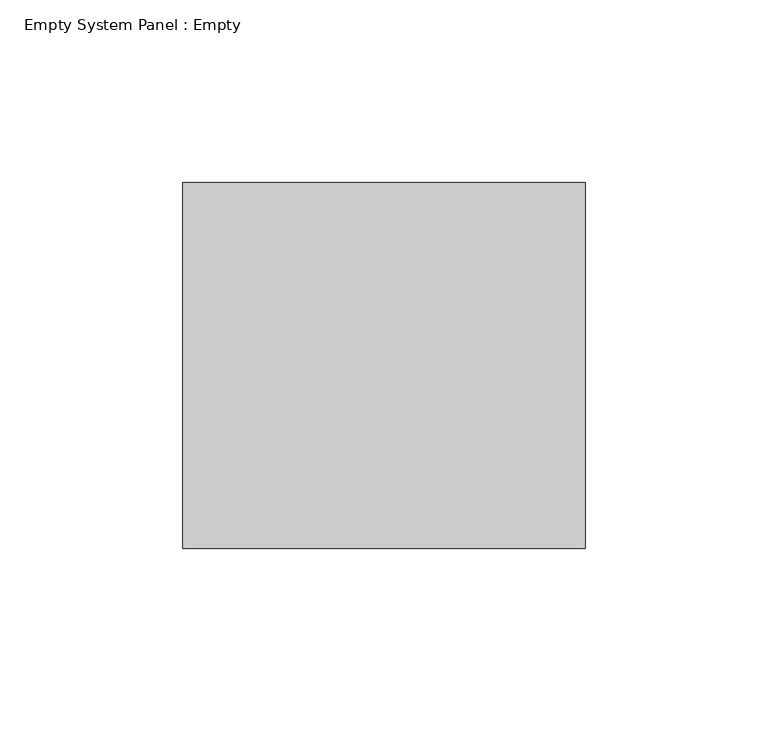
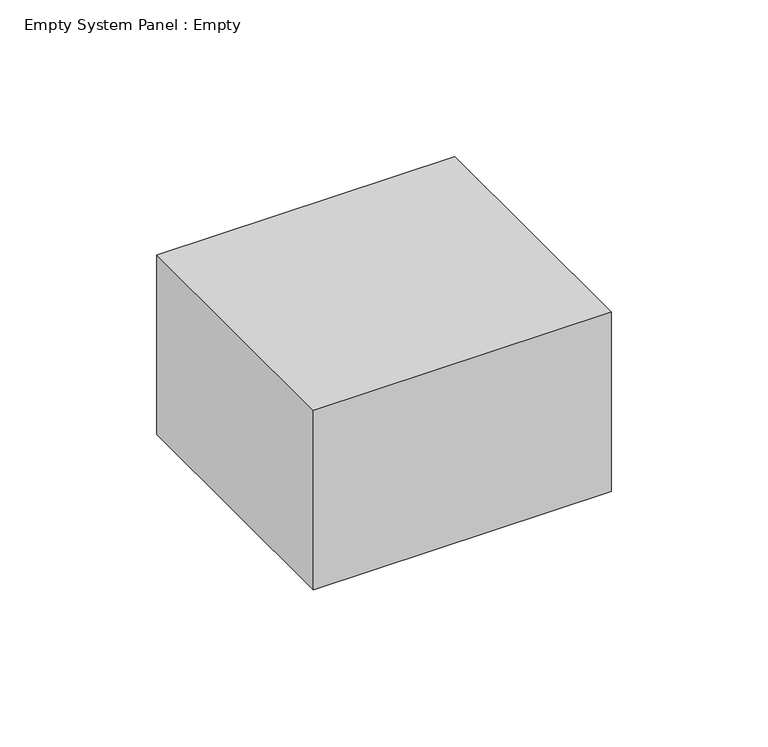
"""IFC4 building model written with IfcOpenShell, lengths in millimetres: plate geometry, Empty System Panel : Empty."""

import ifcopenshell
import ifcopenshell.guid

model = None  # the IFC model being written
_history = None  # IfcOwnerHistory: only IFC2X3 demands one
_inside = {}  # id of a spatial element -> (the spatial element, [elements in it])
_under = {}  # id of a project, library or spatial element -> (it, [spatial elements below it])
_declared = {}  # id of a project -> (the project, [libraries it declares])
_typed = {}  # id of a type object -> (the type object, [elements of that type])
_made_of = {}  # id of a material, layer set ... -> (it, [elements and type objects made of it])


def new_model(schema):
    """Start an empty IFC model of exactly this schema.

    Asked for "IFC4X3", IfcOpenShell would pick the latest addendum, in which some entities
    have other attributes; the version numbers below select the first issue.
    IFC2X3 requires an IfcOwnerHistory on every rooted entity: one is made here for all.
    """
    global model, _history
    if schema == "IFC4X3":
        model = ifcopenshell.file(schema_version=(4, 3, 0, 0))
    else:
        model = ifcopenshell.file(schema=schema)
    _inside.clear()
    _under.clear()
    _declared.clear()
    _typed.clear()
    _made_of.clear()
    _history = None
    if model.schema == "IFC2X3":
        org = make("IfcOrganization", Name="unknown")
        user = make(
            "IfcPersonAndOrganization",
            ThePerson=make("IfcPerson", FamilyName="unknown"),
            TheOrganization=org,
        )
        app = make(
            "IfcApplication",
            ApplicationDeveloper=org,
            Version="unknown",
            ApplicationFullName="unknown",
            ApplicationIdentifier="unknown",
        )
        _history = make(
            "IfcOwnerHistory",
            OwningUser=user,
            OwningApplication=app,
            ChangeAction="ADDED",
            CreationDate=0,
        )
    return model


def make(cls, **values):
    """One entity of the class cls with the attributes given. An attribute that is None is left unset."""
    return model.create_entity(
        cls, **{name: value for name, value in values.items() if value is not None}
    )


def rooted(cls, **values):
    """An entity with a GlobalId (a new one), such as an element, a storey or a relation."""
    return make(cls, GlobalId=ifcopenshell.guid.new(), OwnerHistory=_history, **values)


def si_unit(unit_type, name, prefix=None):
    """IfcSIUnit, for example si_unit("LENGTHUNIT", "METRE", prefix="MILLI")."""
    return make("IfcSIUnit", UnitType=unit_type, Prefix=prefix, Name=name)


def assignment(units):
    """IfcUnitAssignment: the units of a project."""
    return None if units is None else make("IfcUnitAssignment", Units=units)


def point(xyz):
    """IfcCartesianPoint."""
    return None if xyz is None else make("IfcCartesianPoint", Coordinates=xyz)


def direction(xyz):
    """IfcDirection."""
    return None if xyz is None else make("IfcDirection", DirectionRatios=xyz)


def frame(location, z_axis=None, x_axis=None):
    """IfcAxis2Placement3D, a coordinate frame: its origin and axes. An axis left out is left unset."""
    return make(
        "IfcAxis2Placement3D",
        Location=point(location),
        Axis=direction(z_axis),
        RefDirection=direction(x_axis),
    )


def origin():
    """The frame at (0, 0, 0) with its axes left unset."""
    return frame((0.0, 0.0, 0.0))


def origin_with_axes():
    """The frame at (0, 0, 0) with the z axis (0, 0, 1) and the x axis (1, 0, 0) written out."""
    return frame((0.0, 0.0, 0.0), z_axis=(0.0, 0.0, 1.0), x_axis=(1.0, 0.0, 0.0))


def place(relative_to, where):
    """IfcLocalPlacement: puts the frame where relative to a parent placement (None: the world)."""
    return make(
        "IfcLocalPlacement", PlacementRelTo=relative_to, RelativePlacement=where
    )


def context(
    kind, dimensions, precision=None, world=None, true_north=None, identifier=None
):
    """IfcGeometricRepresentationContext, for example the 3D "Model" context."""
    return make(
        "IfcGeometricRepresentationContext",
        ContextIdentifier=identifier,
        ContextType=kind,
        CoordinateSpaceDimension=dimensions,
        Precision=precision,
        WorldCoordinateSystem=world,
        TrueNorth=true_north,
    )


def project(units=None, contexts=None):
    """IfcProject with its units and contexts."""
    return rooted(
        "IfcProject",
        Name="project",
        RepresentationContexts=contexts,
        UnitsInContext=assignment(units),
    )


def spatial(cls, under=None, at=None, **own):
    """A site, building, storey or space (cls), placed at a placement, below another one or the project."""
    s = rooted(cls, ObjectPlacement=at, **own)
    if under is not None:
        _under.setdefault(under.id(), (under, []))[1].append(s)
    return s


def polyline(points):
    """IfcPolyline through the points."""
    return make("IfcPolyline", Points=[point(p) for p in points])


def outline(outer, holes=None, kind="AREA"):
    """IfcArbitraryClosedProfileDef: a profile drawn as a closed curve; with holes, ...WithVoids."""
    if holes is None:
        return make("IfcArbitraryClosedProfileDef", ProfileType=kind, OuterCurve=outer)
    return make(
        "IfcArbitraryProfileDefWithVoids",
        ProfileType=kind,
        OuterCurve=outer,
        InnerCurves=holes,
    )


def extrude(swept, where, along, depth):
    """IfcExtrudedAreaSolid: the profile swept, set in the frame where, extruded along a direction by depth."""
    return make(
        "IfcExtrudedAreaSolid",
        SweptArea=swept,
        Position=where,
        ExtrudedDirection=direction(along),
        Depth=depth,
    )


def shape(context_of_items, identifier, shape_type, items):
    """IfcShapeRepresentation: the items that make up one representation, for example the "Body"."""
    return make(
        "IfcShapeRepresentation",
        ContextOfItems=context_of_items,
        RepresentationIdentifier=identifier,
        RepresentationType=shape_type,
        Items=items,
    )


def source(mapping_origin, context_of_items, identifier, shape_type, items):
    """IfcRepresentationMap: a shape defined once, which mapped items show again and again."""
    return make(
        "IfcRepresentationMap",
        MappingOrigin=mapping_origin,
        MappedRepresentation=shape(context_of_items, identifier, shape_type, items),
    )


def transform(
    local_origin,
    x_axis=None,
    y_axis=None,
    z_axis=None,
    scale=None,
    scale2=None,
    scale3=None,
    uniform=True,
):
    """IfcCartesianTransformationOperator3D, or its non-uniform kind. x_axis, y_axis, z_axis: its Axis1, 2, 3."""
    if uniform:
        return make(
            "IfcCartesianTransformationOperator3D",
            Axis1=direction(x_axis),
            Axis2=direction(y_axis),
            LocalOrigin=point(local_origin),
            Scale=scale,
            Axis3=direction(z_axis),
        )
    return make(
        "IfcCartesianTransformationOperator3DnonUniform",
        Axis1=direction(x_axis),
        Axis2=direction(y_axis),
        LocalOrigin=point(local_origin),
        Scale=scale,
        Axis3=direction(z_axis),
        Scale2=scale2,
        Scale3=scale3,
    )


def mapped(mapping_source, mapping_target):
    """IfcMappedItem: shows the shape of a source again, moved by a transform."""
    return make(
        "IfcMappedItem", MappingSource=mapping_source, MappingTarget=mapping_target
    )


def made_of(thing, what):
    """Note that an element or type object is made of a material, layer set ...; save() writes the relation."""
    if what is not None:
        _made_of.setdefault(what.id(), (what, []))[1].append(thing)
    return thing


def element(
    cls,
    number,
    at=None,
    inside=None,
    cuts=None,
    type_object=None,
    material=None,
    context=None,
    identifier="Body",
    shape_type=None,
    held_by="IfcProductDefinitionShape",
    body=None,
    shapes=None,
    **own,
):
    """One element of the class cls, such as IfcWall. Its Tag is "e" and its number.

    at: its placement. inside: the storey or other place that contains it. cuts: it is an
    opening in that element (IfcRelVoidsElement). A single representation is given by context,
    identifier, shape_type and body (its items); several are given by shapes. held_by: the class
    of the entity that holds the representations. save() writes the other relations.
    """
    e = rooted(cls, Tag="e%d" % number, ObjectPlacement=at, **own)
    if body is not None:
        shapes = [shape(context, identifier, shape_type, body)]
    if shapes is not None:
        e.Representation = make(held_by, Representations=shapes)
    if inside is not None:
        _inside.setdefault(inside.id(), (inside, []))[1].append(e)
    if cuts is not None:
        rooted(
            "IfcRelVoidsElement", RelatingBuildingElement=cuts, RelatedOpeningElement=e
        )
    if type_object is not None:
        _typed.setdefault(type_object.id(), (type_object, []))[1].append(e)
    return made_of(e, material)


def aggregate(whole, parts):
    """IfcRelAggregates: a whole, such as a stair, and the parts it consists of."""
    return rooted("IfcRelAggregates", RelatingObject=whole, RelatedObjects=parts)


def save(model, path):
    """Write the relations noted so far, then the file.

    IfcRelAggregates (storeys below a building ...), IfcRelContainedInSpatialStructure (elements
    in a storey), IfcRelDefinesByType, IfcRelAssociatesMaterial and IfcRelDeclares: one each for
    every whole, place, type object, material and project.
    """
    for whole, parts in _under.values():
        aggregate(whole, parts)
    for where, things in _inside.values():
        rooted(
            "IfcRelContainedInSpatialStructure",
            RelatedElements=things,
            RelatingStructure=where,
        )
    for kind, things in _typed.values():
        rooted("IfcRelDefinesByType", RelatedObjects=things, RelatingType=kind)
    for what, things in _made_of.values():
        rooted("IfcRelAssociatesMaterial", RelatedObjects=things, RelatingMaterial=what)
    for by, libraries in _declared.values():
        rooted("IfcRelDeclares", RelatingContext=by, RelatedDefinitions=libraries)
    model.write(path)


def empty_system_panel_empty_0d94aa23(model_context):
    return source(origin(), model_context, "Body", "SweptSolid", [
        extrude(outline(polyline([(55.0, 50.0), (-55.0, 50.0), (-55.0, 150.0), (55.0, 150.0), (55.0, 50.0)])), origin_with_axes(), (0.0, 0.0, 1.0), 70.0),
    ])


if __name__ == "__main__":
    model = new_model("IFC4")
    model_context = context("Model", 3, world=origin())
    ifc_project = project(units=[si_unit("LENGTHUNIT", "METRE", prefix="MILLI")], contexts=[model_context])
    site = spatial("IfcSite", under=ifc_project)
    building = spatial("IfcBuilding", under=site)
    placement = place(None, origin())
    empty_system_panel_empty_shape = empty_system_panel_empty_0d94aa23(model_context)
    element("IfcPlate", 1, ObjectType="Empty System Panel : Empty", at=placement, inside=building, context=model_context, shape_type="MappedRepresentation", body=[
        mapped(empty_system_panel_empty_shape, transform((0.0, 0.0, 0.0), x_axis=(1.0, 0.0, 0.0), y_axis=(0.0, 1.0, 0.0), z_axis=(0.0, 0.0, 1.0))),
    ])
    save(model, "model.ifc")
